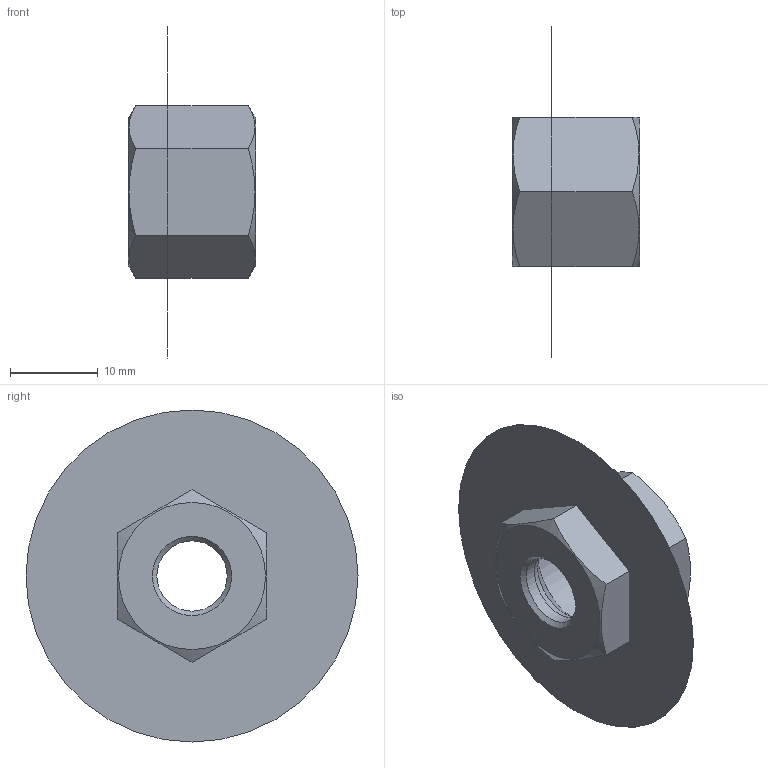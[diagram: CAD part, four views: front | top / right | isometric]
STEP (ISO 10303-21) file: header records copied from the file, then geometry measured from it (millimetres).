
FILE_DESCRIPTION(/* description */ ('Unknown','CAx-IF Rec.Pracs.---Representation and Presentation of Product Manufacturing Information (PMI)---4.0---2014-10-13','CAx-IF Rec.Pracs.---3D Tessellated Geometry---0.4---2014-09-14','2;1'),/* implementation_level */ '2;1');
FILE_NAME(/* name */ 'M08L',/* time_stamp */ '2020-11-19T08:36:22+01:00',/* author */ ('Unknown'),/* organization */ ('Unknown'),/* preprocessor_version */ 'ST-DEVELOPER v16.7',/* originating_system */ 'Solid Edge',/* authorisation */ 'Unknown');
FILE_SCHEMA (('AP242_MANAGED_MODEL_BASED_3D_ENGINEERING_MIM_LF { 1 0 10303 442 1 1 4 }'));
Length unit declared in the file: millimetre
Products named in the file (1): M08L
Bounding box: 14.5 x 37.77 x 37.77 mm (x, y, z)
Volume: 2103.3 mm3; surface area: 2680.2 mm2
Topology: 1 solids, 2 shells, 18 faces, 41 edges, 26 vertices
Faces by surface type: plane 9, cone 6, cylinder 3
Full cylindrical faces by diameter (mm): 8 x1, 12.376 x2
Entity records: 627 total; most frequent: CARTESIAN_POINT 133, DIRECTION 68, ORIENTED_EDGE 58, AXIS2_PLACEMENT_3D 31, EDGE_CURVE 30, EDGE_LOOP 30, FACE_BOUND 30, VERTEX_POINT 24
